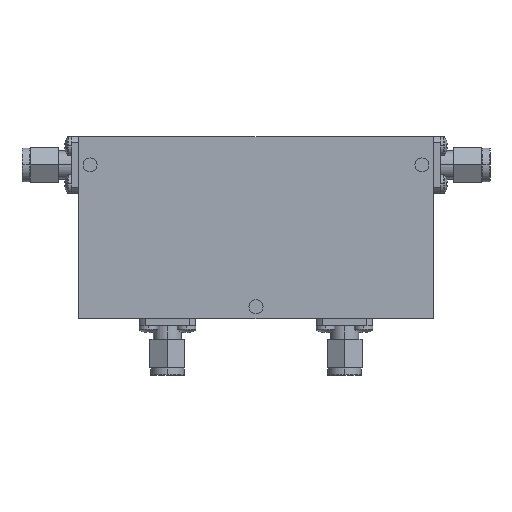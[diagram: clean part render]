
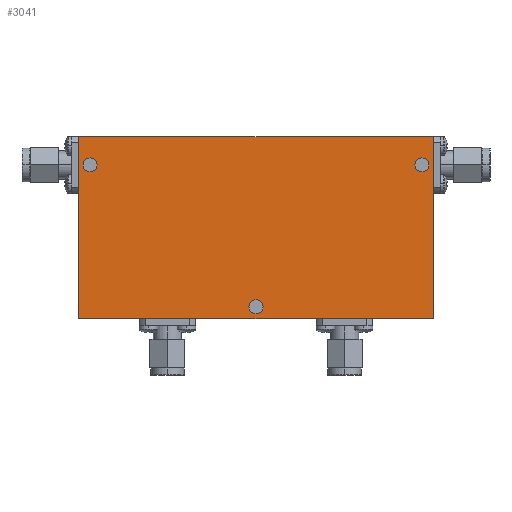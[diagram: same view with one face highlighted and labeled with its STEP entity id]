
A CAD part, top view. The second image highlights one B-rep face of the part: STEP entity #3041.
In plain terms, the highlighted planar face has unit normal (0, 0, 1).
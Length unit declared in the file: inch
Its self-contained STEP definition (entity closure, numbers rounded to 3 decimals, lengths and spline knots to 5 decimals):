
#31 = EDGE_LOOP ( 'NONE', ( #3176, #2696 ) ) ;
#54 = VECTOR ( 'NONE', #1679, 39.37008 ) ;
#117 = CARTESIAN_POINT ( 'NONE',  ( -0.0625, -0.705, 0.35 ) ) ;
#196 = ORIENTED_EDGE ( 'NONE', *, *, #564, .F. ) ;
#237 = DIRECTION ( 'NONE',  ( 1., 0., 0. ) ) ;
#247 = CARTESIAN_POINT ( 'NONE',  ( 1.5425, 0.56, 0.35 ) ) ;
#258 = CIRCLE ( 'NONE', #3315, 0.0625 ) ;
#307 = CARTESIAN_POINT ( 'NONE',  ( 1.58, 0.81, 0.35 ) ) ;
#319 = VECTOR ( 'NONE', #2717, 39.37008 ) ;
#375 = LINE ( 'NONE', #2670, #3351 ) ;
#433 = ORIENTED_EDGE ( 'NONE', *, *, #2519, .T. ) ;
#437 = CARTESIAN_POINT ( 'NONE',  ( -1.58, -0.81, 0.35 ) ) ;
#508 = DIRECTION ( 'NONE',  ( 1., 0., 0. ) ) ;
#516 = DIRECTION ( 'NONE',  ( 0., 0., 1. ) ) ;
#527 = DIRECTION ( 'NONE',  ( 1., 0., 0. ) ) ;
#543 = ORIENTED_EDGE ( 'NONE', *, *, #2646, .F. ) ;
#564 = EDGE_CURVE ( 'NONE', #847, #2474, #2450, .T. ) ;
#593 = DIRECTION ( 'NONE',  ( 1., 0., 0. ) ) ;
#639 = CARTESIAN_POINT ( 'NONE',  ( -1.58, -0.81, 0.35 ) ) ;
#751 = DIRECTION ( 'NONE',  ( 0., 1., 0. ) ) ;
#813 = EDGE_LOOP ( 'NONE', ( #543, #2139 ) ) ;
#834 = CARTESIAN_POINT ( 'NONE',  ( -1.5425, 0.56, 0.35 ) ) ;
#843 = EDGE_CURVE ( 'NONE', #1251, #1243, #258, .T. ) ;
#847 = VERTEX_POINT ( 'NONE', #834 ) ;
#853 = ORIENTED_EDGE ( 'NONE', *, *, #904, .T. ) ;
#904 = EDGE_CURVE ( 'NONE', #3118, #3264, #375, .T. ) ;
#920 = CARTESIAN_POINT ( 'NONE',  ( -1.58, 0.81, 0.35 ) ) ;
#950 = LINE ( 'NONE', #307, #2772 ) ;
#960 = FACE_BOUND ( 'NONE', #31, .T. ) ;
#1071 = CIRCLE ( 'NONE', #1581, 0.0625 ) ;
#1086 = DIRECTION ( 'NONE',  ( 0., 0., 1. ) ) ;
#1128 = DIRECTION ( 'NONE',  ( 0., 0., 1. ) ) ;
#1142 = CARTESIAN_POINT ( 'NONE',  ( 1.58, 0.81, 0.35 ) ) ;
#1243 = VERTEX_POINT ( 'NONE', #247 ) ;
#1251 = VERTEX_POINT ( 'NONE', #2567 ) ;
#1327 = VERTEX_POINT ( 'NONE', #3144 ) ;
#1414 = DIRECTION ( 'NONE',  ( 0., 0., 1. ) ) ;
#1444 = LINE ( 'NONE', #437, #319 ) ;
#1458 = EDGE_LOOP ( 'NONE', ( #1484, #853, #433, #2559 ) ) ;
#1484 = ORIENTED_EDGE ( 'NONE', *, *, #1614, .T. ) ;
#1540 = AXIS2_PLACEMENT_3D ( 'NONE', #2695, #1414, #2458 ) ;
#1558 = DIRECTION ( 'NONE',  ( 0., 0., 1. ) ) ;
#1563 = AXIS2_PLACEMENT_3D ( 'NONE', #2383, #1086, #2886 ) ;
#1580 = CARTESIAN_POINT ( 'NONE',  ( -1.4175, 0.56, 0.35 ) ) ;
#1581 = AXIS2_PLACEMENT_3D ( 'NONE', #3087, #1799, #1792 ) ;
#1614 = EDGE_CURVE ( 'NONE', #1327, #3118, #950, .T. ) ;
#1620 = DIRECTION ( 'NONE',  ( -1., 0., 0. ) ) ;
#1638 = CARTESIAN_POINT ( 'NONE',  ( 0.0625, -0.705, 0.35 ) ) ;
#1679 = DIRECTION ( 'NONE',  ( 0., -1., 0. ) ) ;
#1792 = DIRECTION ( 'NONE',  ( 1., 0., 0. ) ) ;
#1799 = DIRECTION ( 'NONE',  ( 0., 0., 1. ) ) ;
#1874 = CIRCLE ( 'NONE', #2919, 0.0625 ) ;
#1876 = EDGE_LOOP ( 'NONE', ( #2860, #196 ) ) ;
#1895 = VERTEX_POINT ( 'NONE', #1638 ) ;
#1908 = CIRCLE ( 'NONE', #1540, 0.0625 ) ;
#1971 = FACE_OUTER_BOUND ( 'NONE', #1458, .T. ) ;
#2019 = VERTEX_POINT ( 'NONE', #639 ) ;
#2139 = ORIENTED_EDGE ( 'NONE', *, *, #843, .F. ) ;
#2248 = CIRCLE ( 'NONE', #2958, 0.0625 ) ;
#2284 = CARTESIAN_POINT ( 'NONE',  ( -1.48, 0.56, 0.35 ) ) ;
#2299 = DIRECTION ( 'NONE',  ( 0., 0., 1. ) ) ;
#2383 = CARTESIAN_POINT ( 'NONE',  ( 0., 0., 0.35 ) ) ;
#2450 = CIRCLE ( 'NONE', #2737, 0.0625 ) ;
#2458 = DIRECTION ( 'NONE',  ( 1., 0., 0. ) ) ;
#2474 = VERTEX_POINT ( 'NONE', #1580 ) ;
#2519 = EDGE_CURVE ( 'NONE', #3264, #2019, #2575, .T. ) ;
#2555 = FACE_BOUND ( 'NONE', #813, .T. ) ;
#2558 = CARTESIAN_POINT ( 'NONE',  ( -1.58, 0.81, 0.35 ) ) ;
#2559 = ORIENTED_EDGE ( 'NONE', *, *, #2814, .T. ) ;
#2567 = CARTESIAN_POINT ( 'NONE',  ( 1.4175, 0.56, 0.35 ) ) ;
#2575 = LINE ( 'NONE', #2558, #54 ) ;
#2593 = EDGE_CURVE ( 'NONE', #1895, #2758, #1874, .T. ) ;
#2607 = EDGE_CURVE ( 'NONE', #2758, #1895, #2248, .T. ) ;
#2625 = PLANE ( 'NONE',  #1563 ) ;
#2646 = EDGE_CURVE ( 'NONE', #1243, #1251, #1071, .T. ) ;
#2670 = CARTESIAN_POINT ( 'NONE',  ( -1.58, 0.81, 0.35 ) ) ;
#2695 = CARTESIAN_POINT ( 'NONE',  ( -1.48, 0.56, 0.35 ) ) ;
#2696 = ORIENTED_EDGE ( 'NONE', *, *, #2607, .F. ) ;
#2707 = EDGE_CURVE ( 'NONE', #2474, #847, #1908, .T. ) ;
#2717 = DIRECTION ( 'NONE',  ( 1., 0., 0. ) ) ;
#2737 = AXIS2_PLACEMENT_3D ( 'NONE', #2284, #2299, #508 ) ;
#2758 = VERTEX_POINT ( 'NONE', #117 ) ;
#2772 = VECTOR ( 'NONE', #751, 39.37008 ) ;
#2814 = EDGE_CURVE ( 'NONE', #2019, #1327, #1444, .T. ) ;
#2822 = FACE_BOUND ( 'NONE', #1876, .T. ) ;
#2832 = CARTESIAN_POINT ( 'NONE',  ( 0., -0.705, 0.35 ) ) ;
#2860 = ORIENTED_EDGE ( 'NONE', *, *, #2707, .F. ) ;
#2886 = DIRECTION ( 'NONE',  ( 1., 0., 0. ) ) ;
#2919 = AXIS2_PLACEMENT_3D ( 'NONE', #2832, #516, #237 ) ;
#2958 = AXIS2_PLACEMENT_3D ( 'NONE', #3113, #1558, #527 ) ;
#3041 = ADVANCED_FACE ( 'NONE', ( #2555, #960, #2822, #1971 ), #2625, .T. ) ;
#3087 = CARTESIAN_POINT ( 'NONE',  ( 1.48, 0.56, 0.35 ) ) ;
#3113 = CARTESIAN_POINT ( 'NONE',  ( 0., -0.705, 0.35 ) ) ;
#3118 = VERTEX_POINT ( 'NONE', #1142 ) ;
#3144 = CARTESIAN_POINT ( 'NONE',  ( 1.58, -0.81, 0.35 ) ) ;
#3176 = ORIENTED_EDGE ( 'NONE', *, *, #2593, .F. ) ;
#3210 = CARTESIAN_POINT ( 'NONE',  ( 1.48, 0.56, 0.35 ) ) ;
#3264 = VERTEX_POINT ( 'NONE', #920 ) ;
#3315 = AXIS2_PLACEMENT_3D ( 'NONE', #3210, #1128, #593 ) ;
#3351 = VECTOR ( 'NONE', #1620, 39.37008 ) ;
